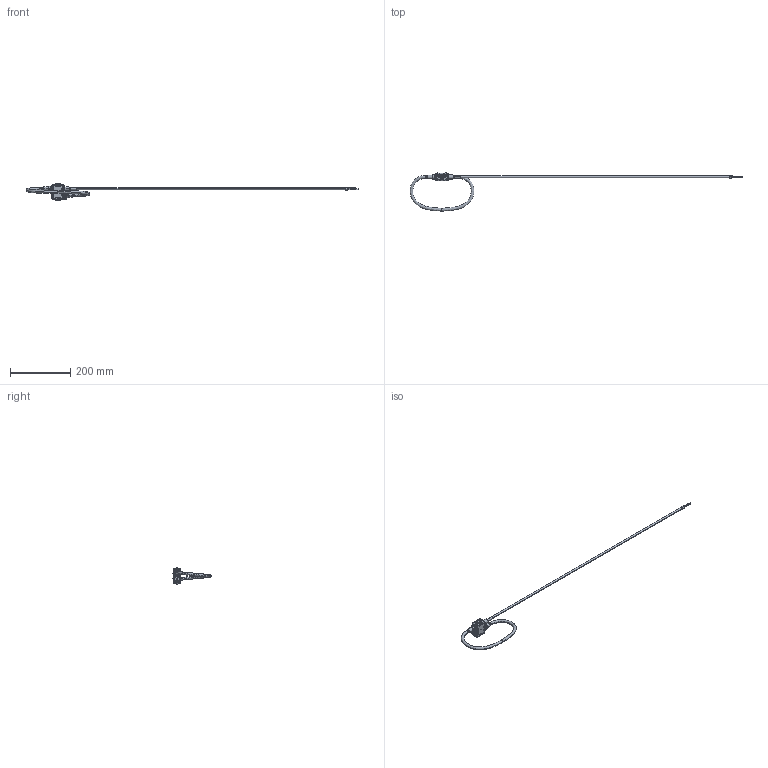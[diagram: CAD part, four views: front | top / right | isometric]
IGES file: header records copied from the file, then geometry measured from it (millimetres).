
Start section: Elysium IGES Interface
Global section: file name: C:\Users\lko\OneDrive - LEM International SA\Desktop\ARU_B100_D125_SP2.igs; native system: Creo Elements/Direct Modeling 20.1  10-Mar-2018; preprocessor: Creo Element/Direct IGES_3D V2.2; author: Unknown; organization: Unknown; date: 20220518.112307; units: millimetre
Bounding box: 1100.96 x 126.54 x 57.4 mm (x, y, z)
Surface area: 46433.3 mm2 (no closed solid volume)
Topology: 0 solids, 1 shells, 761 faces, 2128 edges, 1274 vertices
Faces by surface type: bspline 761
